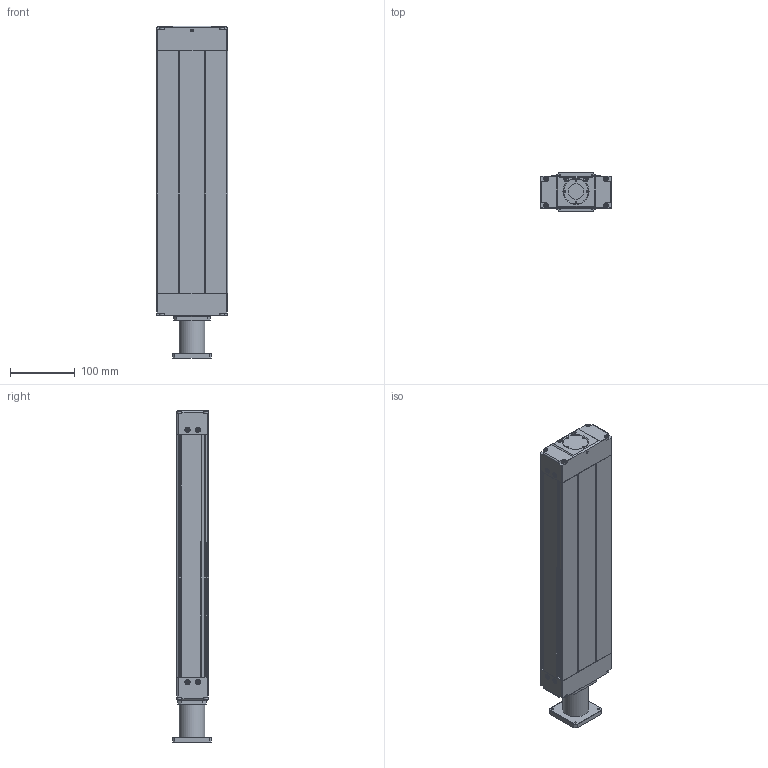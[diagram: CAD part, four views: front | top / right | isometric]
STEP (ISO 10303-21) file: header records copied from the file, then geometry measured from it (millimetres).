
FILE_DESCRIPTION((''),'2;1');
FILE_NAME('C:\My Documents\Transtechnik\STEP\CTV 110 L 0.stp','2010-11-08T15:00:06',('pgrilc'),(''),'Autodesk Inventor 2011','Autodesk Inventor 2011','');
FILE_SCHEMA(('AUTOMOTIVE_DESIGN { 1 0 10303 214 1 1 1 1 }'));
Length unit declared in the file: millimetre
Products named in the file (6): CTV 110 L 0; KONČNIK SPREDNJI CTV 110; KONČNIK ZADNJI CTV 110; PROFIL CTV 110 L; VOZIČEK CTV 110 L; VMESNIK CTV110-M60
Assembly tree (5 placements, depth 2):
  CTV 110 L 0
    KONČNIK SPREDNJI CTV 110
    KONČNIK ZADNJI CTV 110
    PROFIL CTV 110 L
    VOZIČEK CTV 110 L
    VMESNIK CTV110-M60
Bounding box: 110 x 60 x 513 mm (x, y, z)
Volume: 2331652.9 mm3; surface area: 259587 mm2
Topology: 6 solids, 16 shells, 686 faces, 1786 edges, 1169 vertices
Faces by surface type: plane 399, cylinder 201, cone 55, torus 31
Full cylindrical faces by diameter (mm): 1.7 x2, 3 x4, 3.242 x6, 4 x8, 4.134 x8, 4.2 x4, 4.5 x4, 4.917 x4, 5 x6, 6.5 x4, 7 x20, 8 x8, 10 x6, 11 x1, 11.5 x1, 12 x2, 20 x1, 29 x1, 30 x1, 32 x1, 36 x1, 37 x1, 40 x3
Entity records: 20462 total; most frequent: CARTESIAN_POINT 4058, DIRECTION 3188, ORIENTED_EDGE 3050, EDGE_CURVE 1525, AXIS2_PLACEMENT_3D 1148, VERTEX_POINT 1085, EDGE_LOOP 978, VECTOR 892
